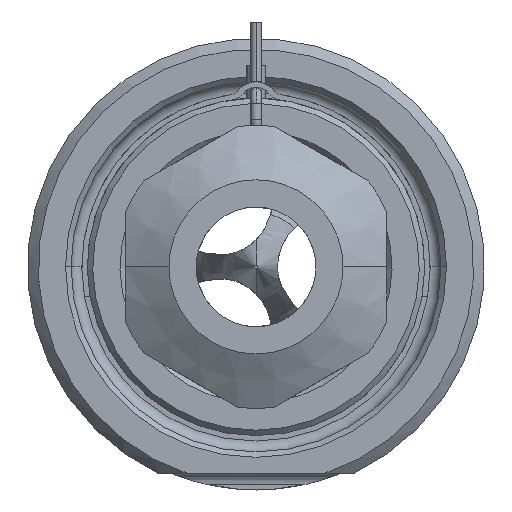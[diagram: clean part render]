
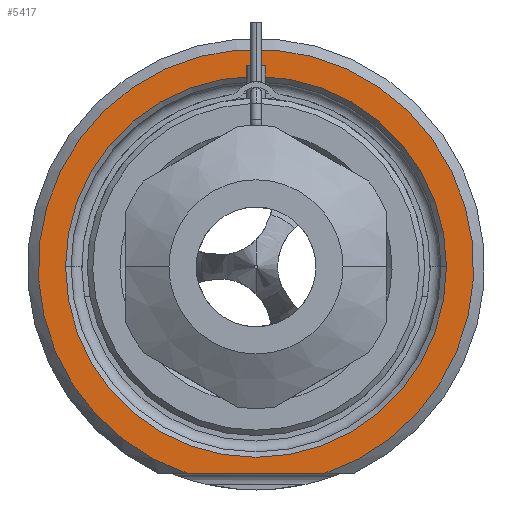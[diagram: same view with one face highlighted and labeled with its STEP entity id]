
A CAD part, front view. The second image highlights one B-rep face of the part: STEP entity #5417.
In plain terms, the highlighted planar face has unit normal (0, -1, 0).
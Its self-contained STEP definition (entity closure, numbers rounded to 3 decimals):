
#1665=DIRECTION('',(1.,0.,0.));
#1666=VECTOR('',#1665,12.49);
#1667=CARTESIAN_POINT('',(-6.245,0.,-19.));
#1668=LINE('',#1667,#1666);
#1669=CARTESIAN_POINT('',(0.,0.,0.));
#1670=DIRECTION('',(0.,1.,0.));
#1671=DIRECTION('',(-1.,0.,0.));
#1672=AXIS2_PLACEMENT_3D('',#1669,#1670,#1671);
#1674=CARTESIAN_POINT('',(0.,0.,0.));
#1675=DIRECTION('',(0.,1.,0.));
#1676=DIRECTION('',(1.,0.,0.));
#1677=AXIS2_PLACEMENT_3D('',#1674,#1675,#1676);
#1783=CARTESIAN_POINT('',(0.,0.,0.));
#1784=DIRECTION('',(0.,-1.,0.));
#1785=DIRECTION('',(0.312,0.,-0.95));
#1786=AXIS2_PLACEMENT_3D('',#1783,#1784,#1785);
#3325=CARTESIAN_POINT('',(-17.5,0.,0.));
#3326=CARTESIAN_POINT('',(17.5,0.,0.));
#3327=VERTEX_POINT('',#3325);
#3328=VERTEX_POINT('',#3326);
#3383=CARTESIAN_POINT('',(-6.245,0.,-19.));
#3384=CARTESIAN_POINT('',(6.245,0.,-19.));
#3385=VERTEX_POINT('',#3383);
#3386=VERTEX_POINT('',#3384);
#5401=CARTESIAN_POINT('',(0.,0.,0.));
#5402=DIRECTION('',(0.,-1.,0.));
#5403=DIRECTION('',(1.,0.,0.));
#5404=AXIS2_PLACEMENT_3D('',#5401,#5402,#5403);
#5405=PLANE('',#5404);
#5407=ORIENTED_EDGE('',*,*,#5406,.F.);
#5409=ORIENTED_EDGE('',*,*,#5408,.F.);
#5410=EDGE_LOOP('',(#5407,#5409));
#5411=FACE_OUTER_BOUND('',#5410,.F.);
#5412=ORIENTED_EDGE('',*,*,#5391,.F.);
#5414=ORIENTED_EDGE('',*,*,#5413,.F.);
#5415=EDGE_LOOP('',(#5412,#5414));
#5416=FACE_BOUND('',#5415,.F.);
#5417=ADVANCED_FACE('',(#5411,#5416),#5405,.T.);
#1673=CIRCLE('',#1672,17.5);
#1678=CIRCLE('',#1677,17.5);
#1787=CIRCLE('',#1786,20.);
#5391=EDGE_CURVE('',#3327,#3328,#1673,.T.);
#5406=EDGE_CURVE('',#3385,#3386,#1668,.T.);
#5408=EDGE_CURVE('',#3386,#3385,#1787,.T.);
#5413=EDGE_CURVE('',#3328,#3327,#1678,.T.);
